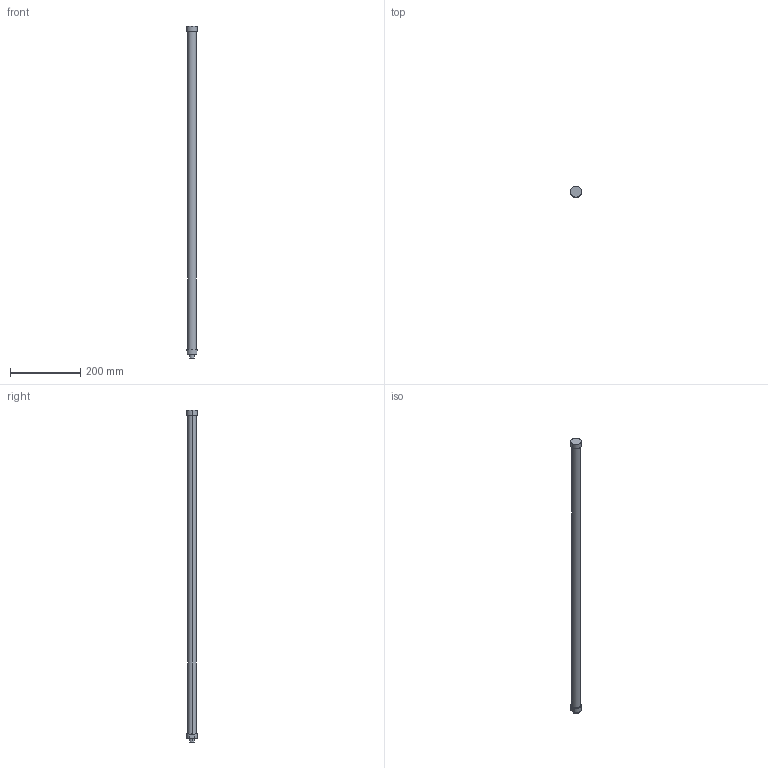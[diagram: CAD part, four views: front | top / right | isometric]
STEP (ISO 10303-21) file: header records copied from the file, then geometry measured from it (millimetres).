
FILE_DESCRIPTION(('STEP AP214'),'1');
FILE_NAME('C:/Users/Autocad/Desktop/L944-C720S1-FN.stp','2014-02-10T11:05:23',(' '),(' '),'Spatial InterOp 3D',' ',' ');
FILE_SCHEMA(('automotive_design'));
Length unit declared in the file: metre
Products named in the file (2): 1; 2
Bounding box: 31 x 31 x 944 mm (x, y, z)
Volume: 466964 mm3; surface area: 76966.9 mm2
Topology: 1 solids, 4 shells, 23 faces, 54 edges, 40 vertices
Faces by surface type: cylinder 12, plane 11
Entity records: 916 total; most frequent: DIRECTION 136, CARTESIAN_POINT 119, ORIENTED_EDGE 96, AXIS2_PLACEMENT_3D 57, EDGE_CURVE 54, VERTEX_POINT 40, CIRCLE 32, EDGE_LOOP 28
